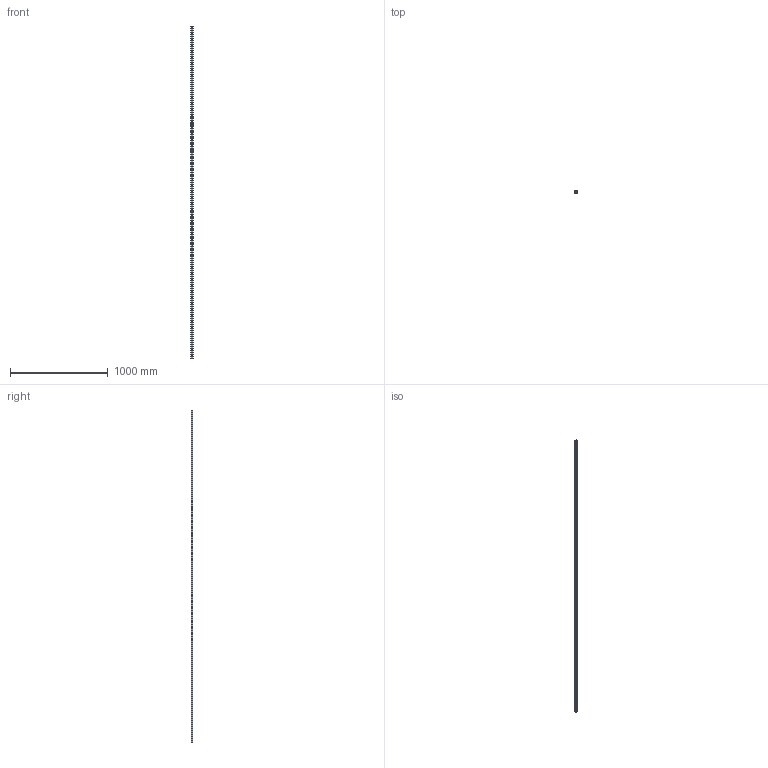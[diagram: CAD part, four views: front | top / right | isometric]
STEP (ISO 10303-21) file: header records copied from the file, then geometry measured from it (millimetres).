
FILE_DESCRIPTION (( 'STEP AP203' ), '1' );
FILE_NAME ('L1016.BRF25-3400.step', '2019-06-13T08:46:37', ( '' ), ( '' ), 'SwSTEP 2.0', 'SolidWorks 2017', '' );
FILE_SCHEMA (( 'CONFIG_CONTROL_DESIGN' ));
Length unit declared in the file: millimetre
Products named in the file (1): L1016.BRF25-3400
Bounding box: 23 x 19.2 x 3400 mm (x, y, z)
Volume: 1298154.5 mm3; surface area: 312751 mm2
Topology: 1 solids, 1 shells, 425 faces, 984 edges, 561 vertices
Faces by surface type: cylinder 232, cone 114, plane 79
Entity records: 11389 total; most frequent: DIRECTION 2186, CARTESIAN_POINT 1857, ORIENTED_EDGE 1740, AXIS2_PLACEMENT_3D 890, EDGE_CURVE 870, VERTEX_POINT 561, EDGE_LOOP 539, CIRCLE 464
